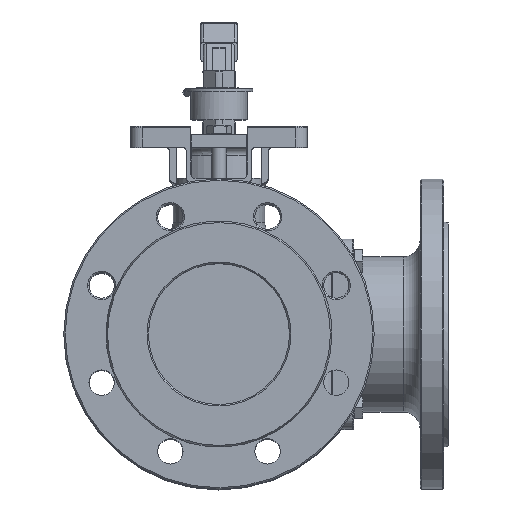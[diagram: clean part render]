
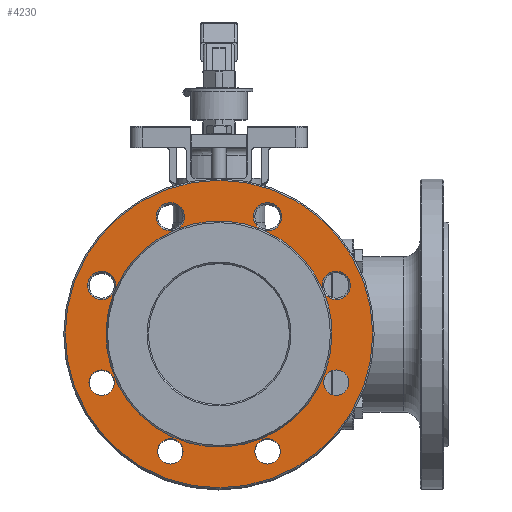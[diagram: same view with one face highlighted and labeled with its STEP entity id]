
A CAD part, top view. The second image highlights one B-rep face of the part: STEP entity #4230.
In plain terms, the highlighted planar face has unit normal (0, 0, 1).
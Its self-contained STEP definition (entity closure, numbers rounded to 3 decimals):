
#4230=ADVANCED_FACE('',(#12512,#12514,#12516,#12518,#12520,#12522),#12524,.T.);
#12512=FACE_BOUND('',#12513,.T.);
#12513=EDGE_LOOP('',(#18328));
#12514=FACE_BOUND('',#12515,.T.);
#12515=EDGE_LOOP('',(#18329,#18330,#18331,#18332,#18333,#18334,#18335,#18336,#18337,
#18338,#18339,#18340,#18341));
#12516=FACE_BOUND('',#12517,.T.);
#12517=EDGE_LOOP('',(#18342));
#12518=FACE_BOUND('',#12519,.T.);
#12519=EDGE_LOOP('',(#18343));
#12520=FACE_BOUND('',#12521,.T.);
#12521=EDGE_LOOP('',(#18344));
#12522=FACE_BOUND('',#12523,.T.);
#12523=EDGE_LOOP('',(#18345));
#12524=PLANE('',#12525);
#12525=AXIS2_PLACEMENT_3D('',#12526,#12527,#12528);
#12526=CARTESIAN_POINT('',(0.,0.,159.5));
#12527=DIRECTION('',(0.,0.,1.));
#12528=DIRECTION('',(1.,0.,0.));
#18328=ORIENTED_EDGE('',*,*,#21160,.F.);
#18329=ORIENTED_EDGE('',*,*,#21161,.F.);
#18330=ORIENTED_EDGE('',*,*,#21162,.F.);
#18331=ORIENTED_EDGE('',*,*,#21163,.F.);
#18332=ORIENTED_EDGE('',*,*,#21164,.F.);
#18333=ORIENTED_EDGE('',*,*,#21165,.F.);
#18334=ORIENTED_EDGE('',*,*,#21166,.F.);
#18335=ORIENTED_EDGE('',*,*,#21167,.F.);
#18336=ORIENTED_EDGE('',*,*,#21168,.F.);
#18337=ORIENTED_EDGE('',*,*,#21169,.F.);
#18338=ORIENTED_EDGE('',*,*,#21170,.F.);
#18339=ORIENTED_EDGE('',*,*,#21171,.F.);
#18340=ORIENTED_EDGE('',*,*,#21172,.F.);
#18341=ORIENTED_EDGE('',*,*,#21173,.F.);
#18342=ORIENTED_EDGE('',*,*,#21066,.T.);
#18343=ORIENTED_EDGE('',*,*,#21061,.T.);
#18344=ORIENTED_EDGE('',*,*,#21060,.T.);
#18345=ORIENTED_EDGE('',*,*,#21059,.T.);
#21059=EDGE_CURVE('',#24397,#24397,#24398,.T.);
#21060=EDGE_CURVE('',#24399,#24399,#24400,.T.);
#21061=EDGE_CURVE('',#24401,#24401,#24402,.T.);
#21066=EDGE_CURVE('',#24411,#24411,#24412,.T.);
#21160=EDGE_CURVE('',#24580,#24580,#24581,.T.);
#21161=EDGE_CURVE('',#24582,#24583,#24584,.T.);
#21162=EDGE_CURVE('',#24585,#24582,#24586,.T.);
#21163=EDGE_CURVE('',#24587,#24585,#24588,.T.);
#21164=EDGE_CURVE('',#24589,#24587,#24590,.T.);
#21165=EDGE_CURVE('',#24591,#24589,#24592,.T.);
#21166=EDGE_CURVE('',#24593,#24591,#24594,.T.);
#21167=EDGE_CURVE('',#24595,#24593,#24596,.T.);
#21168=EDGE_CURVE('',#24597,#24595,#24598,.T.);
#21169=EDGE_CURVE('',#24599,#24597,#24600,.T.);
#21170=EDGE_CURVE('',#24601,#24599,#24602,.T.);
#21171=EDGE_CURVE('',#24603,#24601,#24604,.T.);
#21172=EDGE_CURVE('',#24605,#24603,#24606,.T.);
#21173=EDGE_CURVE('',#24583,#24605,#24607,.T.);
#24397=VERTEX_POINT('',#41327);
#24398=CIRCLE('',#41328,9.);
#24399=VERTEX_POINT('',#41332);
#24400=CIRCLE('',#41333,9.);
#24401=VERTEX_POINT('',#41337);
#24402=CIRCLE('',#41338,9.);
#24411=VERTEX_POINT('',#41362);
#24412=CIRCLE('',#41363,9.);
#24580=VERTEX_POINT('',#42657);
#24581=CIRCLE('',#42658,109.);
#24582=VERTEX_POINT('',#42662);
#24583=VERTEX_POINT('',#42663);
#24584=CIRCLE('',#42664,10.);
#24585=VERTEX_POINT('',#42668);
#24586=CIRCLE('',#42669,80.092);
#24587=VERTEX_POINT('',#42673);
#24588=CIRCLE('',#42674,10.);
#24589=VERTEX_POINT('',#42678);
#24590=CIRCLE('',#42679,10.);
#24591=VERTEX_POINT('',#42683);
#24592=CIRCLE('',#42684,80.092);
#24593=VERTEX_POINT('',#42688);
#24594=CIRCLE('',#42689,10.);
#24595=VERTEX_POINT('',#42693);
#24596=CIRCLE('',#42694,10.);
#24597=VERTEX_POINT('',#42698);
#24598=CIRCLE('',#42699,80.092);
#24599=VERTEX_POINT('',#42703);
#24600=CIRCLE('',#42704,10.);
#24601=VERTEX_POINT('',#42708);
#24602=CIRCLE('',#42709,10.);
#24603=VERTEX_POINT('',#42713);
#24604=CIRCLE('',#42714,80.092);
#24605=VERTEX_POINT('',#42718);
#24606=CIRCLE('',#42719,80.092);
#24607=CIRCLE('',#42723,10.);
#41327=CARTESIAN_POINT('',(43.442,-83.149,159.5));
#41328=AXIS2_PLACEMENT_3D('',#41329,#41330,#41331);
#41329=CARTESIAN_POINT('',(34.442,-83.149,159.5));
#41330=DIRECTION('',(0.,0.,-1.));
#41331=DIRECTION('',(1.,0.,0.));
#41332=CARTESIAN_POINT('',(-25.442,-83.149,159.5));
#41333=AXIS2_PLACEMENT_3D('',#41334,#41335,#41336);
#41334=CARTESIAN_POINT('',(-34.442,-83.149,159.5));
#41335=DIRECTION('',(0.,0.,-1.));
#41336=DIRECTION('',(1.,0.,0.));
#41337=CARTESIAN_POINT('',(-74.149,-34.442,159.5));
#41338=AXIS2_PLACEMENT_3D('',#41339,#41340,#41341);
#41339=CARTESIAN_POINT('',(-83.149,-34.442,159.5));
#41340=DIRECTION('',(0.,0.,-1.));
#41341=DIRECTION('',(1.,0.,0.));
#41362=CARTESIAN_POINT('',(92.149,-34.442,159.5));
#41363=AXIS2_PLACEMENT_3D('',#41364,#41365,#41366);
#41364=CARTESIAN_POINT('',(83.149,-34.442,159.5));
#41365=DIRECTION('',(0.,0.,-1.));
#41366=DIRECTION('',(1.,0.,0.));
#42657=CARTESIAN_POINT('',(109.,0.,159.5));
#42658=AXIS2_PLACEMENT_3D('',#42659,#42660,#42661);
#42659=CARTESIAN_POINT('',(0.,0.,159.5));
#42660=DIRECTION('',(0.,0.,-1.));
#42661=DIRECTION('',(1.,0.,0.));
#42662=CARTESIAN_POINT('',(-73.498,31.825,159.5));
#42663=CARTESIAN_POINT('',(-73.149,34.442,159.5));
#42664=AXIS2_PLACEMENT_3D('',#42665,#42666,#42667);
#42665=CARTESIAN_POINT('',(-83.149,34.442,159.5));
#42666=DIRECTION('',(0.,0.,1.));
#42667=DIRECTION('',(0.965,-0.262,0.));
#42668=CARTESIAN_POINT('',(-31.825,73.498,159.5));
#42669=AXIS2_PLACEMENT_3D('',#42670,#42671,#42672);
#42670=CARTESIAN_POINT('',(0.,0.,159.5));
#42671=DIRECTION('',(0.,0.,1.));
#42672=DIRECTION('',(-0.397,0.918,0.));
#42673=CARTESIAN_POINT('',(-24.442,83.149,159.5));
#42674=AXIS2_PLACEMENT_3D('',#42675,#42676,#42677);
#42675=CARTESIAN_POINT('',(-34.442,83.149,159.5));
#42676=DIRECTION('',(0.,0.,1.));
#42677=DIRECTION('',(1.,0.,0.));
#42678=CARTESIAN_POINT('',(-29.467,74.474,159.5));
#42679=AXIS2_PLACEMENT_3D('',#42680,#42681,#42682);
#42680=CARTESIAN_POINT('',(-34.442,83.149,159.5));
#42681=DIRECTION('',(0.,0.,1.));
#42682=DIRECTION('',(0.497,-0.867,0.));
#42683=CARTESIAN_POINT('',(29.467,74.474,159.5));
#42684=AXIS2_PLACEMENT_3D('',#42685,#42686,#42687);
#42685=CARTESIAN_POINT('',(0.,0.,159.5));
#42686=DIRECTION('',(0.,0.,1.));
#42687=DIRECTION('',(0.368,0.93,0.));
#42688=CARTESIAN_POINT('',(44.442,83.149,159.5));
#42689=AXIS2_PLACEMENT_3D('',#42690,#42691,#42692);
#42690=CARTESIAN_POINT('',(34.442,83.149,159.5));
#42691=DIRECTION('',(0.,0.,1.));
#42692=DIRECTION('',(1.,0.,0.));
#42693=CARTESIAN_POINT('',(31.825,73.498,159.5));
#42694=AXIS2_PLACEMENT_3D('',#42695,#42696,#42697);
#42695=CARTESIAN_POINT('',(34.442,83.149,159.5));
#42696=DIRECTION('',(0.,0.,1.));
#42697=DIRECTION('',(-0.262,-0.965,0.));
#42698=CARTESIAN_POINT('',(73.498,31.825,159.5));
#42699=AXIS2_PLACEMENT_3D('',#42700,#42701,#42702);
#42700=CARTESIAN_POINT('',(0.,0.,159.5));
#42701=DIRECTION('',(0.,0.,1.));
#42702=DIRECTION('',(0.918,0.397,0.));
#42703=CARTESIAN_POINT('',(93.149,34.442,159.5));
#42704=AXIS2_PLACEMENT_3D('',#42705,#42706,#42707);
#42705=CARTESIAN_POINT('',(83.149,34.442,159.5));
#42706=DIRECTION('',(0.,0.,1.));
#42707=DIRECTION('',(1.,0.,0.));
#42708=CARTESIAN_POINT('',(74.474,29.467,159.5));
#42709=AXIS2_PLACEMENT_3D('',#42710,#42711,#42712);
#42710=CARTESIAN_POINT('',(83.149,34.442,159.5));
#42711=DIRECTION('',(0.,0.,1.));
#42712=DIRECTION('',(-0.867,-0.497,0.));
#42713=CARTESIAN_POINT('',(80.092,0.,159.5));
#42714=AXIS2_PLACEMENT_3D('',#42715,#42716,#42717);
#42715=CARTESIAN_POINT('',(0.,0.,159.5));
#42716=DIRECTION('',(0.,0.,1.));
#42717=DIRECTION('',(1.,0.,0.));
#42718=CARTESIAN_POINT('',(-74.474,29.467,159.5));
#42719=AXIS2_PLACEMENT_3D('',#42720,#42721,#42722);
#42720=CARTESIAN_POINT('',(0.,0.,159.5));
#42721=DIRECTION('',(0.,0.,1.));
#42722=DIRECTION('',(-0.93,0.368,0.));
#42723=AXIS2_PLACEMENT_3D('',#42724,#42725,#42726);
#42724=CARTESIAN_POINT('',(-83.149,34.442,159.5));
#42725=DIRECTION('',(0.,0.,1.));
#42726=DIRECTION('',(1.,0.,0.));
